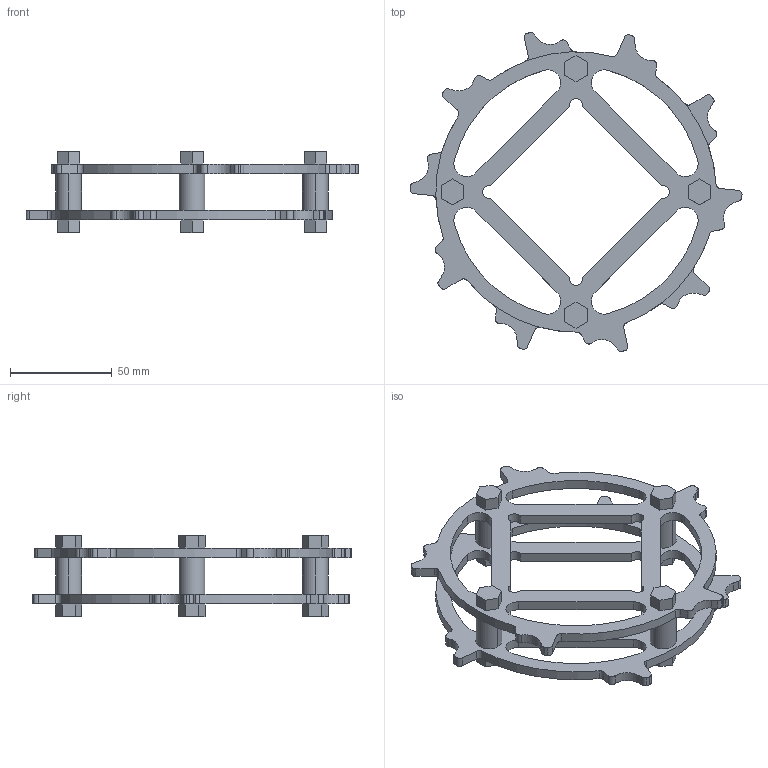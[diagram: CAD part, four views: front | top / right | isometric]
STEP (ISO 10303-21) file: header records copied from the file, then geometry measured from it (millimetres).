
FILE_DESCRIPTION((''),'2;1');
FILE_NAME('S200_AR_METAL_64X25_SQ_ASM','2008-12-12T',('jmumphre'),(''),'PRO/ENGINEER BY PARAMETRIC TECHNOLOGY CORPORATION, 2008150','PRO/ENGINEER BY PARAMETRIC TECHNOLOGY CORPORATION, 2008150','');
FILE_SCHEMA(('CONFIG_CONTROL_DESIGN'));
Length unit declared in the file: inch
Products named in the file (4): S200_TP_AR_64X25_SQ; S200_SPACER_BUSHING; BOLTS_N_NUTS_4-780X1-084; S200_AR_METAL_64X25_SQ_ASM
Assembly tree (7 placements, depth 2):
  S200_AR_METAL_64X25_SQ_ASM
    S200_TP_AR_64X25_SQ  x2
    S200_SPACER_BUSHING  x4
    BOLTS_N_NUTS_4-780X1-084
Bounding box: 163.46 x 157.17 x 40.23 mm (x, y, z)
Volume: 79869.4 mm3; surface area: 52661.3 mm2
Topology: 10 solids, 10 shells, 274 faces, 738 edges, 492 vertices
Faces by surface type: cylinder 152, plane 122
Entity records: 5389 total; most frequent: DIRECTION 949, CARTESIAN_POINT 913, ORIENTED_EDGE 882, EDGE_CURVE 441, AXIS2_PLACEMENT_3D 330, VERTEX_POINT 294, VECTOR 289, LINE 289
